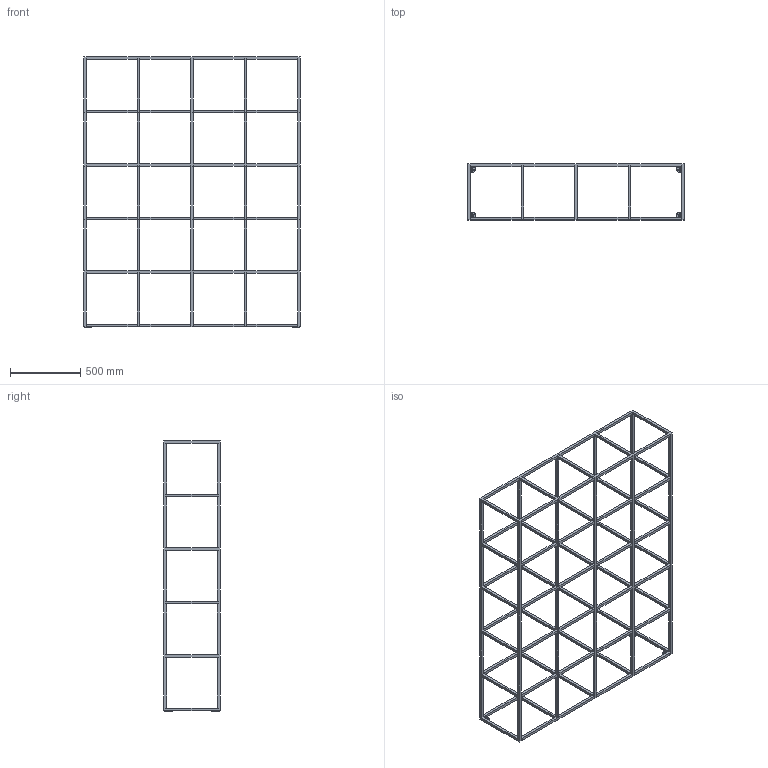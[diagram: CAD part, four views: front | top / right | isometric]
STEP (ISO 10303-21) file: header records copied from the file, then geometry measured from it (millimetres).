
FILE_DESCRIPTION(/* description */ (''),/* implementation_level */ '2;1');
FILE_NAME(/* name */ 'KINOSH~4',/* time_stamp */ '2021-07-29T19:52:21+09:00',/* author */ (''),/* organization */ (''),/* preprocessor_version */ 'ST-DEVELOPER v16.5',/* originating_system */ '',/* authorisation */ '');
FILE_SCHEMA (('AUTOMOTIVE_DESIGN'));
Length unit declared in the file: millimetre
Products named in the file (1): Document
Bounding box: 1543 x 400 x 1927.2 mm (x, y, z)
Volume: 17184600.6 mm3; surface area: 3591227 mm2
Topology: 9 solids, 9 shells, 612 faces, 1344 edges, 620 vertices
Faces by surface type: plane 576, bspline 36
Entity records: 14732 total; most frequent: CARTESIAN_POINT 5046, ORIENTED_EDGE 2688, EDGE_CURVE 1344, B_SPLINE_CURVE_WITH_KNOTS 1236, EDGE_LOOP 668, VERTEX_POINT 620, ADVANCED_FACE 612, FACE_OUTER_BOUND 612
